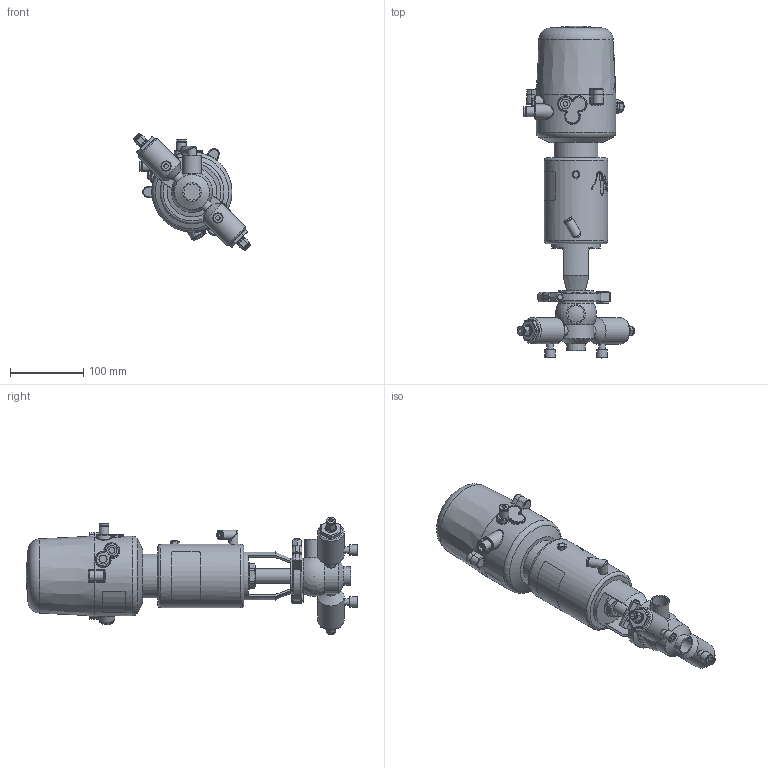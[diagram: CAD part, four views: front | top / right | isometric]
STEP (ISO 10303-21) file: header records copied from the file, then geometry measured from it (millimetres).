
FILE_DESCRIPTION (( 'STEP AP214' ), '1' );
FILE_NAME ('INNOVA D L W OD 1 T1 AS NC & C-TOP S_10.246.16.0003.STEP', '2024-08-08T09:42:53', ( '' ), ( '' ), 'SwSTEP 2.0', 'SolidWorks 2023', '' );
FILE_SCHEMA (( 'AUTOMOTIVE_DESIGN' ));
Length unit declared in the file: millimetre
Products named in the file (7): 10.246.15.0001_OD 1"; 10.240.15.0014_T1 AS P0; 10.240.15.0017_Estàndard; INNOVA D L W OD 1 T1 AS NC & C-TOP S_10.246.16.0003; 10.240.15.0001_DN 025; 10.240.15.0010_DN 025; 10.426.15.0001_C-TOP S - 1 EV
Assembly tree (6 placements, depth 2):
  INNOVA D L W OD 1 T1 AS NC & C-TOP S_10.246.16.0003
    10.246.15.0001_OD 1"
    10.240.15.0010_DN 025
    10.240.15.0014_T1 AS P0
    10.240.15.0017_Estàndard
    10.426.15.0001_C-TOP S - 1 EV
    10.240.15.0001_DN 025
Bounding box: 160.65 x 453 x 160.65 mm (x, y, z)
Volume: 2502554.6 mm3; surface area: 213961.8 mm2
Topology: 6 solids, 6 shells, 1200 faces, 2854 edges, 1892 vertices
Faces by surface type: plane 441, cylinder 351, cone 206, bspline 160, torus 36, sphere 6
Full cylindrical faces by diameter (mm): 0.371 x17, 0.512 x16, 0.658 x16, 0.795 x16, 0.94 x15, 1.098 x15, 1.241 x13, 1.382 x13, 1.523 x11, 1.669 x10, 2.201 x1, 4 x2, 5.5 x2, 6 x6, 6.15 x1, 8 x4, 8.5 x1, 9 x2, 10 x3, 10.5 x1, 11 x2, 12 x4, 12.5 x3, 13 x2, 13.5 x2, 14 x4, 15 x2, 16 x1, 17 x3, 20 x3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
Entity records: 59398 total; most frequent: CARTESIAN_POINT 27412, ORIENTED_EDGE 4840, DIRECTION 4027, EDGE_CURVE 2420, VERTEX_POINT 1717, EDGE_LOOP 1695, AXIS2_PLACEMENT_3D 1627, FACE_OUTER_BOUND 1432
